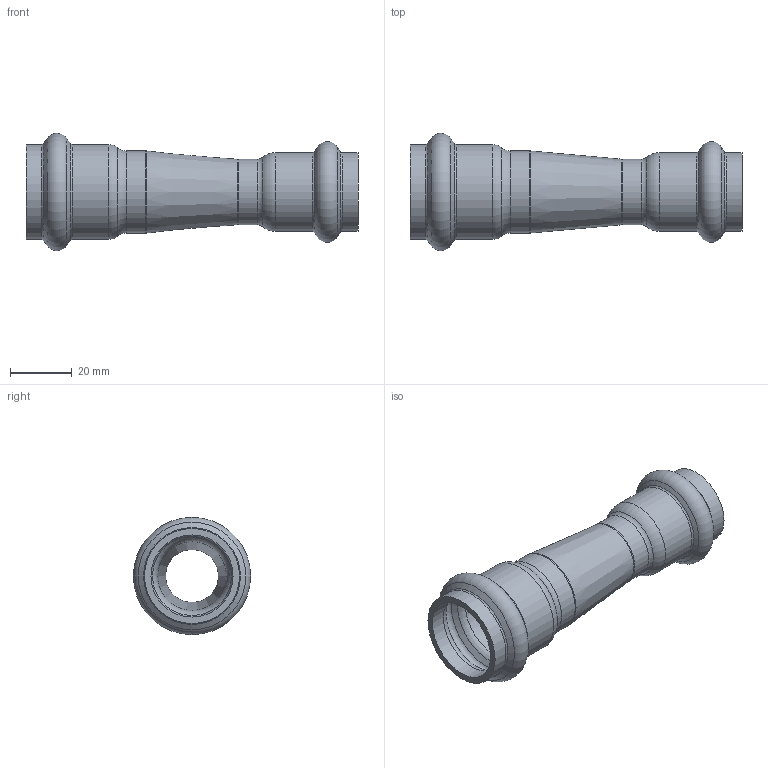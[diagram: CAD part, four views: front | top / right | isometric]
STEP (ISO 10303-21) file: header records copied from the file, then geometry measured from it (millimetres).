
FILE_DESCRIPTION(/* description */ ('VIC REDUCER CONC. STYLE P594 (P X P)','CAx-IF Rec.Pracs.---Representation and Presentation of Product Manufacturing Information (PMI)---4.0---2014-10-13'),/* implementation_level */ '2;1');
FILE_NAME(/* name */ 'C:\Users\Vjadhav\AppData\Roaming\Autodesk\ApplicationPlugins\Back Up\Victaulic_SS-Vic-Press-TP 304_Reducer Concentric_Style P594 (VP)\Victaulic_SS-Vic-Press-TP 304_Reducer Concentric_Style P594 (VP)_0.75x0.50 (20x15).stp',/* time_stamp */ '2020-08-12T18:14:45+06:00',/* author */ ('cgray'),/* organization */ ('Victaulic'),/* preprocessor_version */ 'ST-DEVELOPER v17.2',/* originating_system */ 'Autodesk Inventor 2019',/* authorisation */ '');
FILE_SCHEMA (('AP242_MANAGED_MODEL_BASED_3D_ENGINEERING_MIM_LF { 1 0 10303 442 1 1 4 }'));
Length unit declared in the file: inch
Products named in the file (1): P594-0.75x0.5
Bounding box: 107.95 x 38.12 x 38.12 mm (x, y, z)
Volume: 19190.8 mm3; surface area: 18568.1 mm2
Topology: 1 solids, 1 shells, 48 faces, 182 edges, 136 vertices
Faces by surface type: torus 24, cylinder 12, cone 10, plane 2
Full cylindrical faces by diameter (mm): 17.12 x1, 21.336 x3, 22.454 x1, 25.552 x2, 26.67 x3, 30.886 x2
Entity records: 2282 total; most frequent: DIRECTION 466, CARTESIAN_POINT 384, ORIENTED_EDGE 364, AXIS2_PLACEMENT_3D 222, EDGE_CURVE 182, CIRCLE 160, VERTEX_POINT 136, EDGE_LOOP 50
